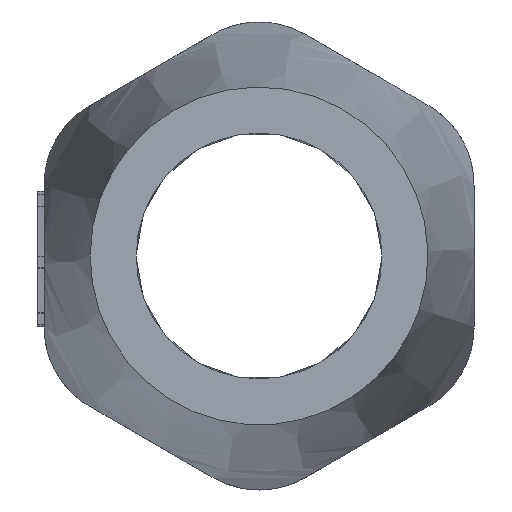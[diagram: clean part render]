
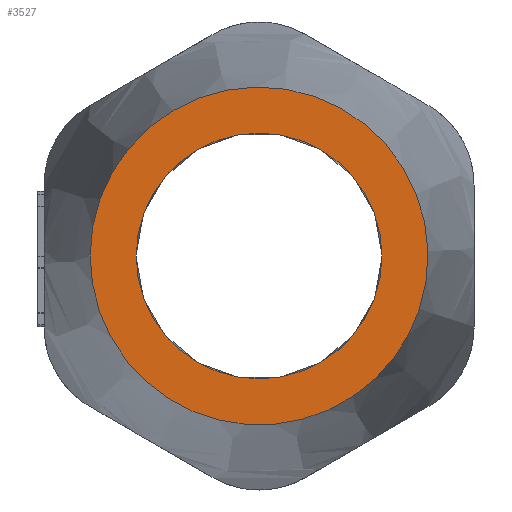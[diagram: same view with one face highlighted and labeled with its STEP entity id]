
A CAD part, front view. The second image highlights one B-rep face of the part: STEP entity #3527.
In plain terms, the highlighted planar face has unit normal (0, -1, 0).
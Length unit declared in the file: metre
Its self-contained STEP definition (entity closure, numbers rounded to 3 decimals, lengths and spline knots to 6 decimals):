
#883=PLANE('',#3753);
#1284=ORIENTED_EDGE('',*,*,#2309,.T.);
#1285=ORIENTED_EDGE('',*,*,#2316,.F.);
#2309=EDGE_CURVE('',#2825,#2825,#3029,.T.);
#2316=EDGE_CURVE('',#2826,#2826,#3030,.T.);
#2825=VERTEX_POINT('',#5463);
#2826=VERTEX_POINT('',#5526);
#3029=CIRCLE('',#3752,0.00275);
#3030=CIRCLE('',#3754,0.002);
#3075=EDGE_LOOP('',(#1284));
#3076=EDGE_LOOP('',(#1285));
#3301=FACE_BOUND('',#3075,.T.);
#3302=FACE_BOUND('',#3076,.T.);
#3527=ADVANCED_FACE('',(#3301,#3302),#883,.T.);
#3752=AXIS2_PLACEMENT_3D('',#5462,#4114,#4115);
#3753=AXIS2_PLACEMENT_3D('',#5524,#4116,#4117);
#3754=AXIS2_PLACEMENT_3D('',#5525,#4118,#4119);
#4114=DIRECTION('',(0.,-1.,0.));
#4115=DIRECTION('',(-1.,0.,0.));
#4116=DIRECTION('',(0.,-1.,0.));
#4117=DIRECTION('',(-1.,0.,0.));
#4118=DIRECTION('',(0.,-1.,0.));
#4119=DIRECTION('',(-1.,0.,0.));
#5462=CARTESIAN_POINT('',(-0.092677,-0.070801,-0.025701));
#5463=CARTESIAN_POINT('',(-0.095427,-0.070801,-0.025701));
#5524=CARTESIAN_POINT('',(-0.092677,-0.070801,-0.025701));
#5525=CARTESIAN_POINT('',(-0.092677,-0.070801,-0.025701));
#5526=CARTESIAN_POINT('',(-0.094677,-0.070801,-0.025701));
